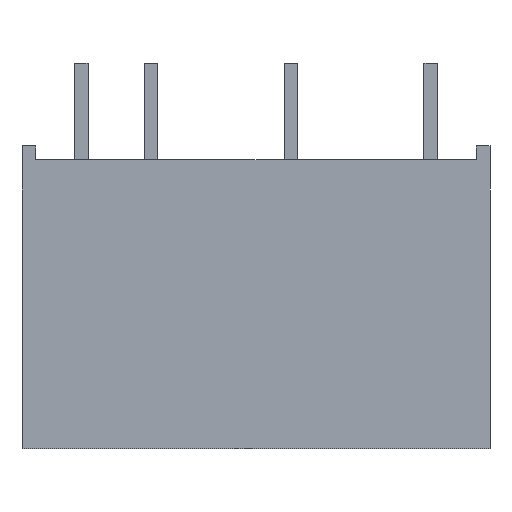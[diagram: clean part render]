
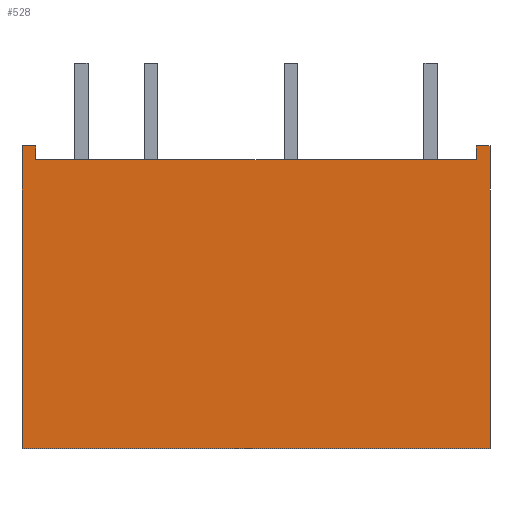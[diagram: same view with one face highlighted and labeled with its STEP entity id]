
A CAD part, front view. The second image highlights one B-rep face of the part: STEP entity #528.
In plain terms, the highlighted planar face has unit normal (0, -1, 0).
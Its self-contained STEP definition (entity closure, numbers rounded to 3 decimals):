
#48=ORIENTED_EDGE('',*,*,#191,.T.);
#49=ORIENTED_EDGE('',*,*,#164,.T.);
#50=ORIENTED_EDGE('',*,*,#192,.T.);
#51=ORIENTED_EDGE('',*,*,#193,.F.);
#52=ORIENTED_EDGE('',*,*,#194,.T.);
#53=ORIENTED_EDGE('',*,*,#195,.T.);
#54=ORIENTED_EDGE('',*,*,#196,.F.);
#55=ORIENTED_EDGE('',*,*,#197,.F.);
#164=EDGE_CURVE('',#236,#237,#284,.T.);
#191=EDGE_CURVE('',#262,#236,#311,.T.);
#192=EDGE_CURVE('',#237,#263,#312,.T.);
#193=EDGE_CURVE('',#264,#263,#313,.T.);
#194=EDGE_CURVE('',#264,#265,#314,.T.);
#195=EDGE_CURVE('',#265,#266,#315,.T.);
#196=EDGE_CURVE('',#267,#266,#316,.T.);
#197=EDGE_CURVE('',#262,#267,#317,.T.);
#236=VERTEX_POINT('',#736);
#237=VERTEX_POINT('',#737);
#262=VERTEX_POINT('',#791);
#263=VERTEX_POINT('',#793);
#264=VERTEX_POINT('',#795);
#265=VERTEX_POINT('',#797);
#266=VERTEX_POINT('',#799);
#267=VERTEX_POINT('',#801);
#284=LINE('',#735,#356);
#311=LINE('',#790,#383);
#312=LINE('',#792,#384);
#313=LINE('',#794,#385);
#314=LINE('',#796,#386);
#315=LINE('',#798,#387);
#316=LINE('',#800,#388);
#317=LINE('',#802,#389);
#356=VECTOR('',#603,1000.);
#383=VECTOR('',#634,1000.);
#384=VECTOR('',#635,1000.);
#385=VECTOR('',#636,1000.);
#386=VECTOR('',#637,1000.);
#387=VECTOR('',#638,1000.);
#388=VECTOR('',#639,1000.);
#389=VECTOR('',#640,1000.);
#434=EDGE_LOOP('',(#48,#49,#50,#51,#52,#53,#54,#55));
#468=FACE_BOUND('',#434,.T.);
#498=PLANE('',#571);
#528=ADVANCED_FACE('',(#468),#498,.F.);
#571=AXIS2_PLACEMENT_3D('',#789,#632,#633);
#603=DIRECTION('',(-1.,0.,0.));
#632=DIRECTION('',(0.,1.,0.));
#633=DIRECTION('',(0.,0.,1.));
#634=DIRECTION('',(0.,0.,-1.));
#635=DIRECTION('',(0.,0.,1.));
#636=DIRECTION('',(1.,0.,0.));
#637=DIRECTION('',(0.,0.,-1.));
#638=DIRECTION('',(1.,0.,0.));
#639=DIRECTION('',(0.,0.,-1.));
#640=DIRECTION('',(1.,0.,0.));
#735=CARTESIAN_POINT('',(16.5,0.,10.5));
#736=CARTESIAN_POINT('',(16.5,0.,10.5));
#737=CARTESIAN_POINT('',(0.5,0.,10.5));
#789=CARTESIAN_POINT('',(0.,0.,11.));
#790=CARTESIAN_POINT('',(16.5,0.,11.));
#791=CARTESIAN_POINT('',(16.5,0.,11.));
#792=CARTESIAN_POINT('',(0.5,0.,10.5));
#793=CARTESIAN_POINT('',(0.5,0.,11.));
#794=CARTESIAN_POINT('',(0.,0.,11.));
#795=CARTESIAN_POINT('',(0.,0.,11.));
#796=CARTESIAN_POINT('',(0.,0.,11.));
#797=CARTESIAN_POINT('',(0.,0.,0.));
#798=CARTESIAN_POINT('',(0.,0.,0.));
#799=CARTESIAN_POINT('',(17.,0.,0.));
#800=CARTESIAN_POINT('',(17.,0.,11.));
#801=CARTESIAN_POINT('',(17.,0.,11.));
#802=CARTESIAN_POINT('',(0.,0.,11.));
